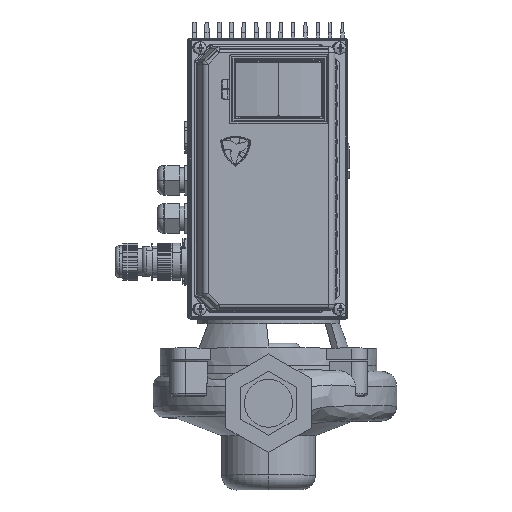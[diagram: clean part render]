
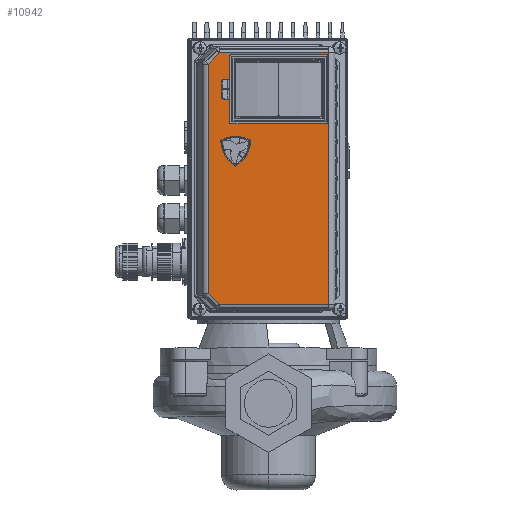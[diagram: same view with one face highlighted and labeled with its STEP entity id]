
A CAD part, top view. The second image highlights one B-rep face of the part: STEP entity #10942.
In plain terms, the highlighted planar face has unit normal (0, 0, 1) as drawn and (0, 0.276, -0.961) by its records, which use the part's own axes.
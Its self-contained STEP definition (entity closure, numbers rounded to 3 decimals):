
#10942=ADVANCED_FACE('',(#21949,#21950),#21951,.F.);
#21949=FACE_BOUND('',#38388,.T.);
#21950=FACE_OUTER_BOUND('',#38389,.T.);
#21951=PLANE('',#38390);
#38388=EDGE_LOOP('',(#61002,#61003,#61004,#61005));
#38389=EDGE_LOOP('',(#61006,#61007,#61008,#61009,#61010,#61011));
#38390=AXIS2_PLACEMENT_3D('',#61012,#61013,#61014);
#61002=ORIENTED_EDGE('',*,*,#71145,.T.);
#61003=ORIENTED_EDGE('',*,*,#71146,.T.);
#61004=ORIENTED_EDGE('',*,*,#71147,.T.);
#61005=ORIENTED_EDGE('',*,*,#71148,.T.);
#61006=ORIENTED_EDGE('',*,*,#71078,.F.);
#61007=ORIENTED_EDGE('',*,*,#71114,.F.);
#61008=ORIENTED_EDGE('',*,*,#71149,.T.);
#61009=ORIENTED_EDGE('',*,*,#71037,.F.);
#61010=ORIENTED_EDGE('',*,*,#71150,.F.);
#61011=ORIENTED_EDGE('',*,*,#71151,.F.);
#61012=CARTESIAN_POINT('',(0.,10.301,61.695));
#61013=DIRECTION('',(0.0,-0.276,0.961));
#61014=DIRECTION('',(-0.0,0.961,0.276));
#71037=EDGE_CURVE('',#80255,#80257,#80258,.T.);
#71078=EDGE_CURVE('',#80324,#80326,#80327,.T.);
#71114=EDGE_CURVE('',#80374,#80324,#80376,.T.);
#71145=EDGE_CURVE('',#80412,#80413,#80414,.T.);
#71146=EDGE_CURVE('',#80413,#80415,#80416,.T.);
#71147=EDGE_CURVE('',#80415,#80417,#80418,.T.);
#71148=EDGE_CURVE('',#80417,#80412,#80419,.T.);
#71149=EDGE_CURVE('',#80374,#80257,#80420,.T.);
#71150=EDGE_CURVE('',#80421,#80255,#80422,.T.);
#71151=EDGE_CURVE('',#80326,#80421,#80423,.T.);
#80255=VERTEX_POINT('',#95213);
#80257=VERTEX_POINT('',#95215);
#80258=LINE('',#95216,#95217);
#80324=VERTEX_POINT('',#95298);
#80326=VERTEX_POINT('',#95300);
#80327=LINE('',#95301,#95302);
#80374=VERTEX_POINT('',#95356);
#80376=LINE('',#95358,#95359);
#80412=VERTEX_POINT('',#95400);
#80413=VERTEX_POINT('',#95401);
#80414=LINE('',#95402,#95403);
#80415=VERTEX_POINT('',#95404);
#80416=LINE('',#95405,#95406);
#80417=VERTEX_POINT('',#95407);
#80418=LINE('',#95408,#95409);
#80419=LINE('',#95410,#95411);
#80420=LINE('',#95412,#95413);
#80421=VERTEX_POINT('',#95414);
#80422=LINE('',#95415,#95416);
#80423=LINE('',#95417,#95418);
#95213=CARTESIAN_POINT('',(-102.0,48.307,72.593));
#95215=CARTESIAN_POINT('',(-102.0,-36.776,48.195));
#95216=CARTESIAN_POINT('',(-102.0,-27.524,50.848));
#95217=VECTOR('',#104507,1.0);
#95298=CARTESIAN_POINT('',(102.0,48.307,72.593));
#95300=CARTESIAN_POINT('',(92.929,57.378,75.194));
#95301=CARTESIAN_POINT('',(83.993,66.314,77.756));
#95302=VECTOR('',#104574,1.);
#95356=CARTESIAN_POINT('',(102.0,-36.776,48.195));
#95358=CARTESIAN_POINT('',(102.0,-27.524,50.848));
#95359=VECTOR('',#104639,1.);
#95400=CARTESIAN_POINT('',(-95.,-31.008,49.849));
#95401=CARTESIAN_POINT('',(-50.,-31.008,49.849));
#95402=CARTESIAN_POINT('',(-36.25,-31.008,49.849));
#95403=VECTOR('',#104687,1.);
#95404=CARTESIAN_POINT('',(-50.,35.319,68.868));
#95405=CARTESIAN_POINT('',(-50.,6.228,60.527));
#95406=VECTOR('',#104688,1.);
#95407=CARTESIAN_POINT('',(-95.,35.319,68.868));
#95408=CARTESIAN_POINT('',(-36.25,35.319,68.868));
#95409=VECTOR('',#104689,1.);
#95410=CARTESIAN_POINT('',(-95.,6.228,60.527));
#95411=VECTOR('',#104690,1.);
#95412=CARTESIAN_POINT('',(0.,-36.776,48.195));
#95413=VECTOR('',#104691,1.0);
#95414=CARTESIAN_POINT('',(-92.929,57.378,75.194));
#95415=CARTESIAN_POINT('',(-83.993,66.314,77.756));
#95416=VECTOR('',#104692,1.0);
#95417=CARTESIAN_POINT('',(0.,57.378,75.194));
#95418=VECTOR('',#104693,1.0);
#104507=DIRECTION('',(0.,-0.961,-0.276));
#104574=DIRECTION('',(-0.693,0.693,0.199));
#104639=DIRECTION('',(0.,0.961,0.276));
#104687=DIRECTION('',(1.0,0.,0.));
#104688=DIRECTION('',(-0.0,0.961,0.276));
#104689=DIRECTION('',(-1.0,0.,0.));
#104690=DIRECTION('',(-0.0,-0.961,-0.276));
#104691=DIRECTION('',(-1.0,0.0,0.0));
#104692=DIRECTION('',(-0.693,-0.693,-0.199));
#104693=DIRECTION('',(-1.0,0.0,0.0));
